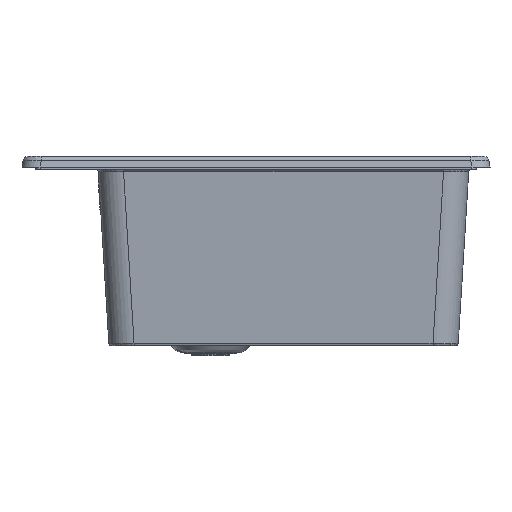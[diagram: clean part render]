
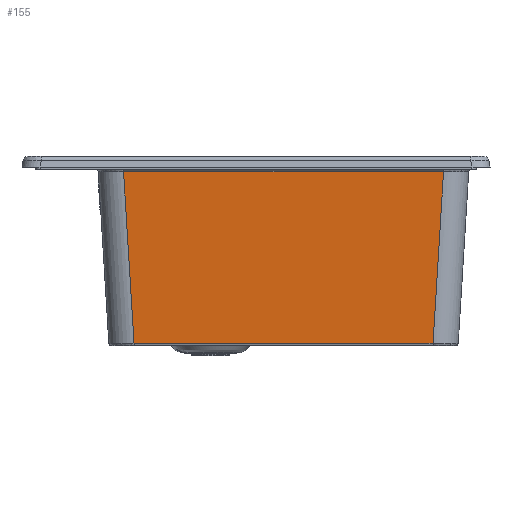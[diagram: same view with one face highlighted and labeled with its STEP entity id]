
A CAD part, left-side view. The second image highlights one B-rep face of the part: STEP entity #155.
In plain terms, the highlighted planar face has unit normal (-0.998, 0, -0.061).
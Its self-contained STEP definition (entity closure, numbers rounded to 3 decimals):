
#155=ADVANCED_FACE('',(#1896),#28447,.T.);
#1896=FACE_OUTER_BOUND('',#3638,.T.);
#3638=EDGE_LOOP('',(#5633,#5634,#5635,#5636));
#5633=ORIENTED_EDGE('',*,*,#14669,.F.);
#5634=ORIENTED_EDGE('',*,*,#14666,.F.);
#5635=ORIENTED_EDGE('',*,*,#14668,.F.);
#5636=ORIENTED_EDGE('',*,*,#14667,.F.);
#14666=EDGE_CURVE('',#25726,#25725,#19025,.T.);
#14667=EDGE_CURVE('',#25508,#25554,#19026,.T.);
#14668=EDGE_CURVE('',#25554,#25726,#25110,.T.);
#14669=EDGE_CURVE('',#25725,#25508,#25111,.T.);
#19025=B_SPLINE_CURVE_WITH_KNOTS('',1,(#61904,#61905),.UNSPECIFIED.,.F.,
 .F.,(2,2),(-1.,0.),.UNSPECIFIED.);
#19026=B_SPLINE_CURVE_WITH_KNOTS('',1,(#61906,#61907),.UNSPECIFIED.,.F.,
 .F.,(2,2),(-4.,-3.),.UNSPECIFIED.);
#25110=(
BOUNDED_CURVE()
B_SPLINE_CURVE(1,(#61908,#61909),.UNSPECIFIED.,.F.,.F.)
B_SPLINE_CURVE_WITH_KNOTS((2,2),(-1.,0.),.UNSPECIFIED.)
CURVE()
GEOMETRIC_REPRESENTATION_ITEM()
RATIONAL_B_SPLINE_CURVE((1.,1.))
REPRESENTATION_ITEM('')
);
#25111=(
BOUNDED_CURVE()
B_SPLINE_CURVE(1,(#61910,#61911),.UNSPECIFIED.,.F.,.F.)
B_SPLINE_CURVE_WITH_KNOTS((2,2),(-1.,0.),.UNSPECIFIED.)
CURVE()
GEOMETRIC_REPRESENTATION_ITEM()
RATIONAL_B_SPLINE_CURVE((1.,1.))
REPRESENTATION_ITEM('')
);
#25508=VERTEX_POINT('',#59764);
#25554=VERTEX_POINT('',#59810);
#25725=VERTEX_POINT('',#59981);
#25726=VERTEX_POINT('',#59982);
#28447=PLANE('',#30152);
#30152=AXIS2_PLACEMENT_3D('',#39256,#33153,$);
#33153=DIRECTION('',(-0.998,0.,-0.061));
#39256=CARTESIAN_POINT('',(-690.125,-214.885,-31.608));
#59764=CARTESIAN_POINT('',(-678.695,124.429,-218.474));
#59810=CARTESIAN_POINT('',(-690.125,135.858,-31.608));
#59981=CARTESIAN_POINT('',(-678.695,-201.364,-218.474));
#59982=CARTESIAN_POINT('',(-690.125,-212.793,-31.608));
#61904=CARTESIAN_POINT('',(-690.125,-212.793,-31.608));
#61905=CARTESIAN_POINT('',(-678.695,-201.364,-218.474));
#61906=CARTESIAN_POINT('',(-678.695,124.429,-218.474));
#61907=CARTESIAN_POINT('',(-690.125,135.858,-31.608));
#61908=CARTESIAN_POINT('',(-690.125,135.858,-31.608));
#61909=CARTESIAN_POINT('',(-690.125,-212.793,-31.608));
#61910=CARTESIAN_POINT('',(-678.695,-201.364,-218.474));
#61911=CARTESIAN_POINT('',(-678.695,124.429,-218.474));
